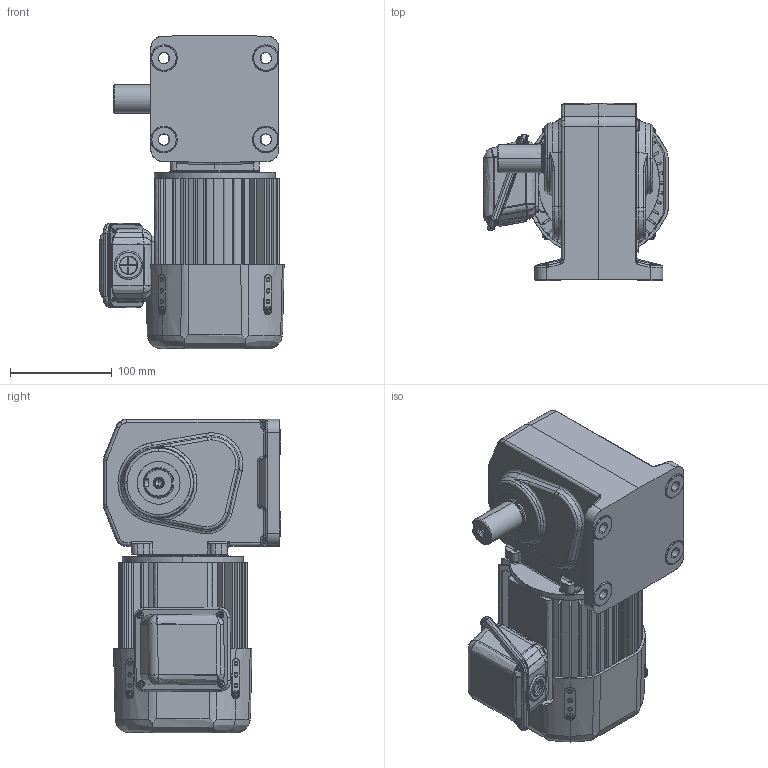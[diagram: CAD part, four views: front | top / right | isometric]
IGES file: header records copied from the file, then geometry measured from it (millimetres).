
Start section: SolidWorks IGES file using analytic representation for surfaces
Global section: file name: \\100.100.100.8\1_共有作業フォルダ\1-5_３Ｄデータ\solidworks\personal-folder\H.Nagayama\HL外形\HL(3D)\igs\TMHLB-02-(80~240)A.IGS; native system: SolidWorks 2018; preprocessor: SolidWorks 2018; author: sigma-giken; date: 200324.171755; units: millimetre
Bounding box: 181 x 174.5 x 308.1 mm (x, y, z)
Surface area: 481342 mm2 (no closed solid volume)
Topology: 0 solids, 0 shells, 1900 faces, 24797 edges, 24728 vertices
Faces by surface type: bspline 958, revolution 942
